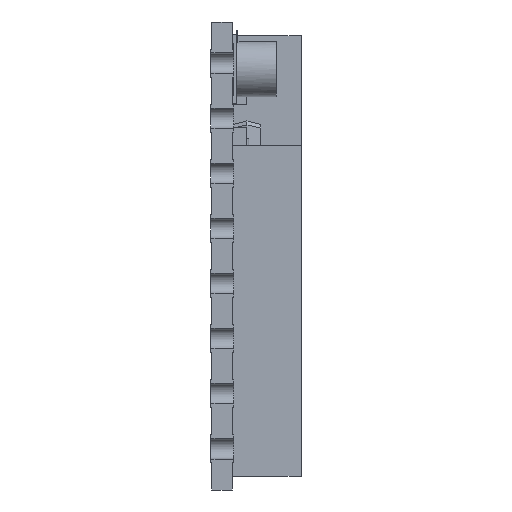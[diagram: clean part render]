
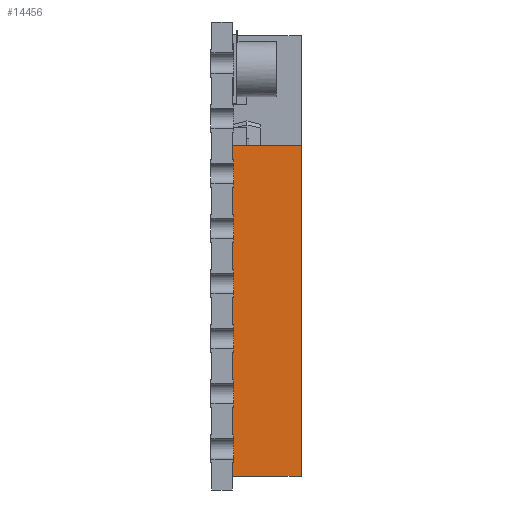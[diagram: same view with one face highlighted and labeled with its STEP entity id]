
A CAD part, left-side view. The second image highlights one B-rep face of the part: STEP entity #14456.
In plain terms, the highlighted planar face has unit normal (-1, 0, 0).
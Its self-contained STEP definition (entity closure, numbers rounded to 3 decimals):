
#75 = LINE ( 'NONE', #4023, #845 ) ;
#485 = CARTESIAN_POINT ( 'NONE',  ( 1., -3.28, -15. ) ) ;
#519 = LINE ( 'NONE', #5872, #4712 ) ;
#845 = VECTOR ( 'NONE', #11976, 1000. ) ;
#2582 = CARTESIAN_POINT ( 'NONE',  ( 1., -3.28, -3. ) ) ;
#3159 = FACE_OUTER_BOUND ( 'NONE', #17214, .T. ) ;
#3559 = CARTESIAN_POINT ( 'NONE',  ( 1., -3.28, -15. ) ) ;
#3678 = DIRECTION ( 'NONE',  ( -1., 0., 0. ) ) ;
#4023 = CARTESIAN_POINT ( 'NONE',  ( 1., -0.78, -15.5 ) ) ;
#4712 = VECTOR ( 'NONE', #15096, 1000. ) ;
#5238 = CARTESIAN_POINT ( 'NONE',  ( 1., -0.78, -15. ) ) ;
#5872 = CARTESIAN_POINT ( 'NONE',  ( 1., -3.28, -15. ) ) ;
#6040 = CARTESIAN_POINT ( 'NONE',  ( 1., -0.78, -3. ) ) ;
#7124 = EDGE_CURVE ( 'NONE', #10116, #13433, #519, .T. ) ;
#7259 = CARTESIAN_POINT ( 'NONE',  ( 1., -3.28, -15. ) ) ;
#7561 = LINE ( 'NONE', #3559, #11357 ) ;
#7984 = EDGE_CURVE ( 'NONE', #14224, #8639, #75, .T. ) ;
#8019 = DIRECTION ( 'NONE',  ( 0., -1., 0. ) ) ;
#8639 = VERTEX_POINT ( 'NONE', #6040 ) ;
#8745 = CARTESIAN_POINT ( 'NONE',  ( 1., -3.28, -3. ) ) ;
#9252 = LINE ( 'NONE', #2582, #10475 ) ;
#10116 = VERTEX_POINT ( 'NONE', #485 ) ;
#10475 = VECTOR ( 'NONE', #8019, 1000. ) ;
#11344 = EDGE_CURVE ( 'NONE', #14224, #10116, #7561, .T. ) ;
#11357 = VECTOR ( 'NONE', #15902, 1000. ) ;
#11831 = ORIENTED_EDGE ( 'NONE', *, *, #11344, .T. ) ;
#11976 = DIRECTION ( 'NONE',  ( 0., 0., 1. ) ) ;
#13433 = VERTEX_POINT ( 'NONE', #8745 ) ;
#14224 = VERTEX_POINT ( 'NONE', #5238 ) ;
#14456 = ADVANCED_FACE ( 'NONE', ( #3159 ), #16817, .T. ) ;
#14461 = AXIS2_PLACEMENT_3D ( 'NONE', #7259, #3678, #15939 ) ;
#15096 = DIRECTION ( 'NONE',  ( 0., 0., 1. ) ) ;
#15902 = DIRECTION ( 'NONE',  ( 0., -1., 0. ) ) ;
#15939 = DIRECTION ( 'NONE',  ( 0., 0., 1. ) ) ;
#16053 = ORIENTED_EDGE ( 'NONE', *, *, #7124, .T. ) ;
#16270 = ORIENTED_EDGE ( 'NONE', *, *, #7984, .F. ) ;
#16405 = ORIENTED_EDGE ( 'NONE', *, *, #16608, .F. ) ;
#16608 = EDGE_CURVE ( 'NONE', #8639, #13433, #9252, .T. ) ;
#16817 = PLANE ( 'NONE',  #14461 ) ;
#17214 = EDGE_LOOP ( 'NONE', ( #16270, #11831, #16053, #16405 ) ) ;
